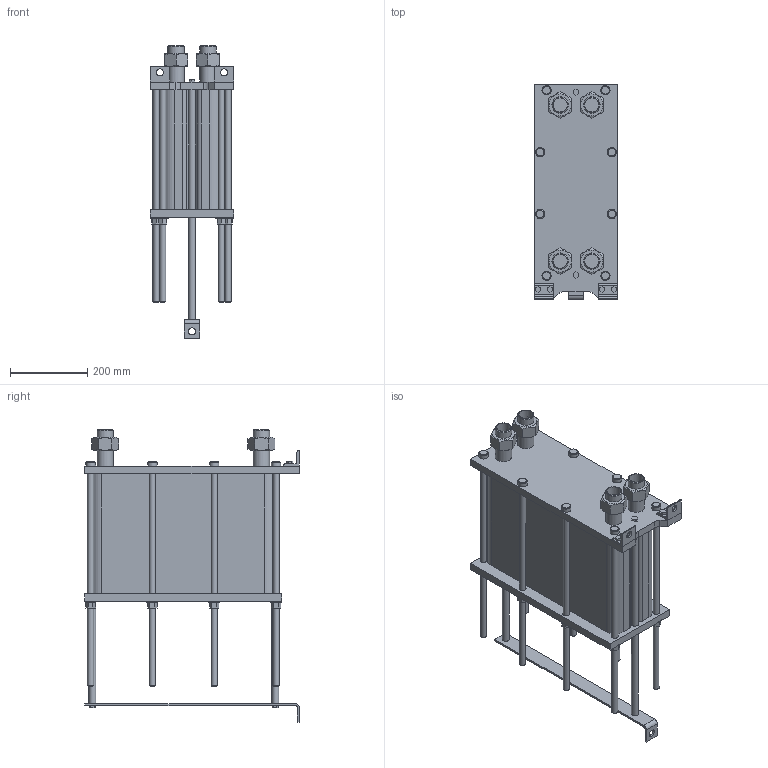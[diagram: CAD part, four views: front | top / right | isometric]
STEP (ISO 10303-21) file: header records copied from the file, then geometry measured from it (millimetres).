
FILE_DESCRIPTION(/* description */ (''),/* implementation_level */ '2;1');
FILE_NAME(/* name */ 'C:\Users\zhuro\Desktop\ENCO\TO\ЭН-004\ЭН-0,5-004-100-1.stp',/* time_stamp */ '2022-06-06T10:52:21+03:00',/* author */ ('zhuro'),/* organization */ (''),/* preprocessor_version */ 'ST-DEVELOPER v18.1',/* originating_system */ 'Autodesk Inventor 2022',/* authorisation */ '');
FILE_SCHEMA (('AUTOMOTIVE_DESIGN { 1 0 10303 214 3 1 1 }'));
Length unit declared in the file: millimetre
Products named in the file (1): ЭН-0,5-004-100-1
Bounding box: 216 x 555 x 757 mm (x, y, z)
Volume: 29003347.1 mm3; surface area: 1629906.1 mm2
Topology: 40 solids, 40 shells, 403 faces, 865 edges, 574 vertices
Faces by surface type: plane 272, cylinder 103, cone 28
Full cylindrical faces by diameter (mm): 10 x4, 16 x16, 18 x29, 20 x2, 24 x8, 28 x8, 36.3 x5, 42.3 x9
Entity records: 11137 total; most frequent: CARTESIAN_POINT 1939, DIRECTION 1879, ORIENTED_EDGE 1730, EDGE_CURVE 865, AXIS2_PLACEMENT_3D 658, VERTEX_POINT 574, LINE 563, VECTOR 563
